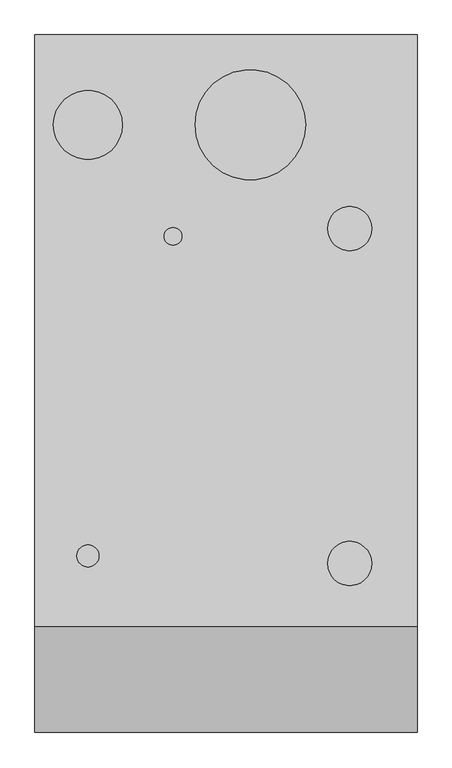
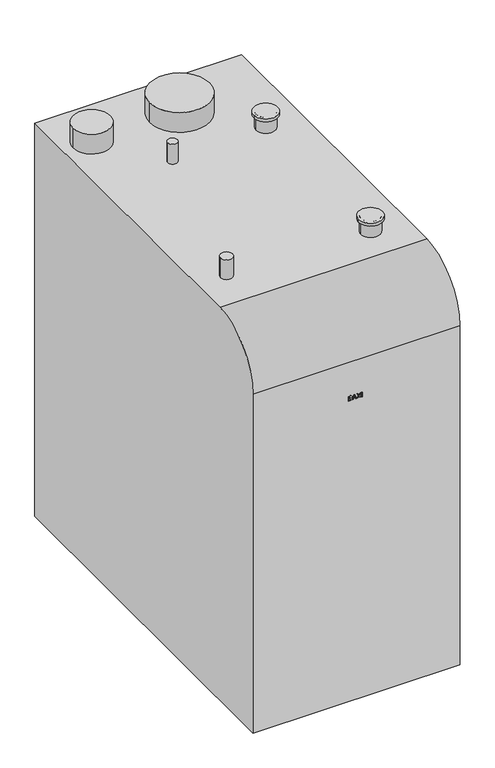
"""IFC4 building model written with IfcOpenShell, lengths in millimetres: proxy geometry, BAXI_ГазовыйКотел_Power_HT : BAXI_Газовый котел_Power_HT_1.280."""

import ifcopenshell
import ifcopenshell.guid

model = None  # the IFC model being written
_history = None  # IfcOwnerHistory: only IFC2X3 demands one
_inside = {}  # id of a spatial element -> (the spatial element, [elements in it])
_under = {}  # id of a project, library or spatial element -> (it, [spatial elements below it])
_declared = {}  # id of a project -> (the project, [libraries it declares])
_typed = {}  # id of a type object -> (the type object, [elements of that type])
_made_of = {}  # id of a material, layer set ... -> (it, [elements and type objects made of it])


def new_model(schema):
    """Start an empty IFC model of exactly this schema.

    Asked for "IFC4X3", IfcOpenShell would pick the latest addendum, in which some entities
    have other attributes; the version numbers below select the first issue.
    IFC2X3 requires an IfcOwnerHistory on every rooted entity: one is made here for all.
    """
    global model, _history
    if schema == "IFC4X3":
        model = ifcopenshell.file(schema_version=(4, 3, 0, 0))
    else:
        model = ifcopenshell.file(schema=schema)
    _inside.clear()
    _under.clear()
    _declared.clear()
    _typed.clear()
    _made_of.clear()
    _history = None
    if model.schema == "IFC2X3":
        org = make("IfcOrganization", Name="unknown")
        user = make(
            "IfcPersonAndOrganization",
            ThePerson=make("IfcPerson", FamilyName="unknown"),
            TheOrganization=org,
        )
        app = make(
            "IfcApplication",
            ApplicationDeveloper=org,
            Version="unknown",
            ApplicationFullName="unknown",
            ApplicationIdentifier="unknown",
        )
        _history = make(
            "IfcOwnerHistory",
            OwningUser=user,
            OwningApplication=app,
            ChangeAction="ADDED",
            CreationDate=0,
        )
    return model


def make(cls, **values):
    """One entity of the class cls with the attributes given. An attribute that is None is left unset."""
    return model.create_entity(
        cls, **{name: value for name, value in values.items() if value is not None}
    )


def rooted(cls, **values):
    """An entity with a GlobalId (a new one), such as an element, a storey or a relation."""
    return make(cls, GlobalId=ifcopenshell.guid.new(), OwnerHistory=_history, **values)


def si_unit(unit_type, name, prefix=None):
    """IfcSIUnit, for example si_unit("LENGTHUNIT", "METRE", prefix="MILLI")."""
    return make("IfcSIUnit", UnitType=unit_type, Prefix=prefix, Name=name)


def assignment(units):
    """IfcUnitAssignment: the units of a project."""
    return None if units is None else make("IfcUnitAssignment", Units=units)


def point(xyz):
    """IfcCartesianPoint."""
    return None if xyz is None else make("IfcCartesianPoint", Coordinates=xyz)


def direction(xyz):
    """IfcDirection."""
    return None if xyz is None else make("IfcDirection", DirectionRatios=xyz)


def frame(location, z_axis=None, x_axis=None):
    """IfcAxis2Placement3D, a coordinate frame: its origin and axes. An axis left out is left unset."""
    return make(
        "IfcAxis2Placement3D",
        Location=point(location),
        Axis=direction(z_axis),
        RefDirection=direction(x_axis),
    )


def frame_2d(location, x_axis=None):
    """IfcAxis2Placement2D, a coordinate frame in the plane: its origin and x axis."""
    return make(
        "IfcAxis2Placement2D", Location=point(location), RefDirection=direction(x_axis)
    )


def origin():
    """The frame at (0, 0, 0) with its axes left unset."""
    return frame((0.0, 0.0, 0.0))


def place(relative_to, where):
    """IfcLocalPlacement: puts the frame where relative to a parent placement (None: the world)."""
    return make(
        "IfcLocalPlacement", PlacementRelTo=relative_to, RelativePlacement=where
    )


def context(
    kind, dimensions, precision=None, world=None, true_north=None, identifier=None
):
    """IfcGeometricRepresentationContext, for example the 3D "Model" context."""
    return make(
        "IfcGeometricRepresentationContext",
        ContextIdentifier=identifier,
        ContextType=kind,
        CoordinateSpaceDimension=dimensions,
        Precision=precision,
        WorldCoordinateSystem=world,
        TrueNorth=true_north,
    )


def project(units=None, contexts=None):
    """IfcProject with its units and contexts."""
    return rooted(
        "IfcProject",
        Name="project",
        RepresentationContexts=contexts,
        UnitsInContext=assignment(units),
    )


def spatial(cls, under=None, at=None, **own):
    """A site, building, storey or space (cls), placed at a placement, below another one or the project."""
    s = rooted(cls, ObjectPlacement=at, **own)
    if under is not None:
        _under.setdefault(under.id(), (under, []))[1].append(s)
    return s


def polyline(points):
    """IfcPolyline through the points."""
    return make("IfcPolyline", Points=[point(p) for p in points])


def circle_curve(where, radius):
    """IfcCircle in the frame where."""
    return make("IfcCircle", Position=where, Radius=radius)


def trimmed(basis, trim1, trim2, sense, master):
    """IfcTrimmedCurve: the piece of a basis curve between two trims."""
    return make(
        "IfcTrimmedCurve",
        BasisCurve=basis,
        Trim1=trim1,
        Trim2=trim2,
        SenseAgreement=sense,
        MasterRepresentation=master,
    )


def segment(curve, same_sense, transition):
    """IfcCompositeCurveSegment."""
    return make(
        "IfcCompositeCurveSegment",
        Transition=transition,
        SameSense=same_sense,
        ParentCurve=curve,
    )


def composite_curve(segments, self_intersect=None):
    """IfcCompositeCurve: segments joined end to end."""
    return make("IfcCompositeCurve", Segments=segments, SelfIntersect=self_intersect)


def outline(outer, holes=None, kind="AREA"):
    """IfcArbitraryClosedProfileDef: a profile drawn as a closed curve; with holes, ...WithVoids."""
    if holes is None:
        return make("IfcArbitraryClosedProfileDef", ProfileType=kind, OuterCurve=outer)
    return make(
        "IfcArbitraryProfileDefWithVoids",
        ProfileType=kind,
        OuterCurve=outer,
        InnerCurves=holes,
    )


def extrude(swept, where, along, depth):
    """IfcExtrudedAreaSolid: the profile swept, set in the frame where, extruded along a direction by depth."""
    return make(
        "IfcExtrudedAreaSolid",
        SweptArea=swept,
        Position=where,
        ExtrudedDirection=direction(along),
        Depth=depth,
    )


def shape(context_of_items, identifier, shape_type, items):
    """IfcShapeRepresentation: the items that make up one representation, for example the "Body"."""
    return make(
        "IfcShapeRepresentation",
        ContextOfItems=context_of_items,
        RepresentationIdentifier=identifier,
        RepresentationType=shape_type,
        Items=items,
    )


def source(mapping_origin, context_of_items, identifier, shape_type, items):
    """IfcRepresentationMap: a shape defined once, which mapped items show again and again."""
    return make(
        "IfcRepresentationMap",
        MappingOrigin=mapping_origin,
        MappedRepresentation=shape(context_of_items, identifier, shape_type, items),
    )


def transform(
    local_origin,
    x_axis=None,
    y_axis=None,
    z_axis=None,
    scale=None,
    scale2=None,
    scale3=None,
    uniform=True,
):
    """IfcCartesianTransformationOperator3D, or its non-uniform kind. x_axis, y_axis, z_axis: its Axis1, 2, 3."""
    if uniform:
        return make(
            "IfcCartesianTransformationOperator3D",
            Axis1=direction(x_axis),
            Axis2=direction(y_axis),
            LocalOrigin=point(local_origin),
            Scale=scale,
            Axis3=direction(z_axis),
        )
    return make(
        "IfcCartesianTransformationOperator3DnonUniform",
        Axis1=direction(x_axis),
        Axis2=direction(y_axis),
        LocalOrigin=point(local_origin),
        Scale=scale,
        Axis3=direction(z_axis),
        Scale2=scale2,
        Scale3=scale3,
    )


def mapped(mapping_source, mapping_target):
    """IfcMappedItem: shows the shape of a source again, moved by a transform."""
    return make(
        "IfcMappedItem", MappingSource=mapping_source, MappingTarget=mapping_target
    )


def made_of(thing, what):
    """Note that an element or type object is made of a material, layer set ...; save() writes the relation."""
    if what is not None:
        _made_of.setdefault(what.id(), (what, []))[1].append(thing)
    return thing


def element(
    cls,
    number,
    at=None,
    inside=None,
    cuts=None,
    type_object=None,
    material=None,
    context=None,
    identifier="Body",
    shape_type=None,
    held_by="IfcProductDefinitionShape",
    body=None,
    shapes=None,
    **own,
):
    """One element of the class cls, such as IfcWall. Its Tag is "e" and its number.

    at: its placement. inside: the storey or other place that contains it. cuts: it is an
    opening in that element (IfcRelVoidsElement). A single representation is given by context,
    identifier, shape_type and body (its items); several are given by shapes. held_by: the class
    of the entity that holds the representations. save() writes the other relations.
    """
    e = rooted(cls, Tag="e%d" % number, ObjectPlacement=at, **own)
    if body is not None:
        shapes = [shape(context, identifier, shape_type, body)]
    if shapes is not None:
        e.Representation = make(held_by, Representations=shapes)
    if inside is not None:
        _inside.setdefault(inside.id(), (inside, []))[1].append(e)
    if cuts is not None:
        rooted(
            "IfcRelVoidsElement", RelatingBuildingElement=cuts, RelatedOpeningElement=e
        )
    if type_object is not None:
        _typed.setdefault(type_object.id(), (type_object, []))[1].append(e)
    return made_of(e, material)


def aggregate(whole, parts):
    """IfcRelAggregates: a whole, such as a stair, and the parts it consists of."""
    return rooted("IfcRelAggregates", RelatingObject=whole, RelatedObjects=parts)


def save(model, path):
    """Write the relations noted so far, then the file.

    IfcRelAggregates (storeys below a building ...), IfcRelContainedInSpatialStructure (elements
    in a storey), IfcRelDefinesByType, IfcRelAssociatesMaterial and IfcRelDeclares: one each for
    every whole, place, type object, material and project.
    """
    for whole, parts in _under.values():
        aggregate(whole, parts)
    for where, things in _inside.values():
        rooted(
            "IfcRelContainedInSpatialStructure",
            RelatedElements=things,
            RelatingStructure=where,
        )
    for kind, things in _typed.values():
        rooted("IfcRelDefinesByType", RelatedObjects=things, RelatingType=kind)
    for what, things in _made_of.values():
        rooted("IfcRelAssociatesMaterial", RelatedObjects=things, RelatingMaterial=what)
    for by, libraries in _declared.values():
        rooted("IfcRelDeclares", RelatingContext=by, RelatedDefinitions=libraries)
    model.write(path)


def mechanical_equipment_f56d0d52(model_context):
    return source(origin(), model_context, "Body", "SweptSolid", [
        extrude(outline(polyline([(1077.0261683, -27.1214036), (1061.7222773, -27.1214036), (1061.7222773, -21.8910559), (1061.8247588, -18.1485865), (1062.5478221, -16.0666956), (1064.1154081, -14.7344372), (1066.1365693, -14.2467016), (1068.4329121, -14.9261154), (1069.8145134, -16.8694667), (1071.1695454, -15.307574), (1073.1508527, -14.7325394), (1074.9518686, -15.2145816), (1076.2385797, -16.4196871), (1076.874344, -18.0593897), (1077.0261683, -20.8396725), (1077.0261683, -27.1214036)]), holes=[polyline([(1074.3540604, -24.2063767), (1074.3540604, -22.2554343), (1071.0025386, -19.5150054), (1070.9531957, -21.9821505), (1070.9531957, -24.2063767), (1074.3540604, -24.2063767)]), polyline([(1068.2810878, -24.2063767), (1068.2810878, -21.5152907), (1064.4854799, -18.8393872), (1064.3943853, -21.1243431), (1064.3943853, -24.2063767), (1068.2810878, -24.2063767)])]), frame((0.0, -1264.0, 0.0), z_axis=(0.0, 1.0, 0.0), x_axis=(0.0, 0.0, 1.0)), (0.0, 0.0, 1.0), 5.0),
        extrude(outline(polyline([(1061.7222773, 1.0571894), (1077.0261683, -4.5830839), (1077.0261683, -7.6878912), (1061.7222773, -13.275026), (1061.7222773, -10.1702188), (1065.123142, -8.9859891), (1065.123142, -3.2052783), (1061.7222773, -2.0058662), (1061.7222773, 1.0571894)]), holes=[polyline([(1067.79525, -4.1389978), (1067.79525, -8.0522696), (1073.3823848, -6.1089183), (1067.79525, -4.1389978)])]), frame((0.0, -1264.0, 0.0), z_axis=(0.0, 1.0, 0.0), x_axis=(0.0, 0.0, 1.0)), (0.0, 0.0, 1.0), 5.0),
        extrude(outline(polyline([(1061.7222773, 1.1786488), (1061.7222773, 4.5871047), (1067.127223, 8.1018376), (1061.7222773, 11.6165705), (1061.7222773, 15.0250264), (1069.7461924, 9.8060656), (1077.0261683, 14.5391886), (1077.0261683, 11.1307327), (1072.3689575, 8.1018376), (1077.0261683, 5.0729425), (1077.0261683, 1.6644866), (1069.7461924, 6.3976097), (1061.7222773, 1.1786488)])), frame((0.0, -1264.0, 0.0), z_axis=(0.0, 1.0, 0.0), x_axis=(0.0, 0.0, 1.0)), (0.0, 0.0, 1.0), 5.0),
        extrude(outline(polyline([(16.6039993, -1259.0), (19.5190261, -1259.0), (19.5190261, -1264.0), (16.6039993, -1264.0), (16.6039993, -1259.0)])), frame((0.0, 0.0, 1061.7222773), z_axis=(0.0, 0.0, 1.0), x_axis=(1.0, 0.0, 0.0)), (0.0, 0.0, 1.0), 15.303891),
        extrude(outline(composite_curve([segment(trimmed(circle_curve(frame_2d((224.0, -351.0)), 40.0), [point((184.0, -351.0))], [point((264.0, -351.0))], False, "CARTESIAN"), True, "CONTINUOUS"), segment(trimmed(circle_curve(frame_2d((224.0, -351.0)), 40.0), [point((264.0, -351.0))], [point((184.0, -351.0))], False, "CARTESIAN"), True, "CONTINUOUS")], self_intersect=False)), frame((0.0, 0.0, 1435.0), z_axis=(0.0, 0.0, 1.0), x_axis=(1.0, 0.0, 0.0)), (0.0, 0.0, 1.0), 10.0),
        extrude(outline(composite_curve([segment(trimmed(circle_curve(frame_2d((224.0, -958.0)), 40.0), [point((184.0, -958.0))], [point((264.0, -958.0))], False, "CARTESIAN"), True, "CONTINUOUS"), segment(trimmed(circle_curve(frame_2d((224.0, -958.0)), 40.0), [point((264.0, -958.0))], [point((184.0, -958.0))], False, "CARTESIAN"), True, "CONTINUOUS")], self_intersect=False)), frame((0.0, 0.0, 1435.0), z_axis=(0.0, 0.0, 1.0), x_axis=(1.0, 0.0, 0.0)), (0.0, 0.0, 1.0), 10.0),
        extrude(outline(composite_curve([segment(trimmed(circle_curve(frame_2d((44.0, -163.0)), 100.0), [point((-56.0, -163.0))], [point((144.0, -163.0))], False, "CARTESIAN"), True, "CONTINUOUS"), segment(trimmed(circle_curve(frame_2d((44.0, -163.0)), 100.0), [point((144.0, -163.0))], [point((-56.0, -163.0))], False, "CARTESIAN"), True, "CONTINUOUS")], self_intersect=False)), frame((0.0, 0.0, 1389.0), z_axis=(0.0, 0.0, 1.0), x_axis=(1.0, 0.0, 0.0)), (0.0, 0.0, 1.0), 70.0),
        extrude(outline(composite_curve([segment(trimmed(circle_curve(frame_2d((-96.0, -365.0)), 16.0), [point((-112.0, -365.0))], [point((-80.0, -365.0))], False, "CARTESIAN"), True, "CONTINUOUS"), segment(trimmed(circle_curve(frame_2d((-96.0, -365.0)), 16.0), [point((-80.0, -365.0))], [point((-112.0, -365.0))], False, "CARTESIAN"), True, "CONTINUOUS")], self_intersect=False)), frame((0.0, 0.0, 1389.0), z_axis=(0.0, 0.0, 1.0), x_axis=(1.0, 0.0, 0.0)), (0.0, 0.0, 1.0), 70.0),
        extrude(outline(composite_curve([segment(trimmed(circle_curve(frame_2d((-250.0, -944.0)), 20.0), [point((-270.0, -944.0))], [point((-230.0, -944.0))], False, "CARTESIAN"), True, "CONTINUOUS"), segment(trimmed(circle_curve(frame_2d((-250.0, -944.0)), 20.0), [point((-230.0, -944.0))], [point((-270.0, -944.0))], False, "CARTESIAN"), True, "CONTINUOUS")], self_intersect=False)), frame((0.0, 0.0, 1389.0), z_axis=(0.0, 0.0, 1.0), x_axis=(1.0, 0.0, 0.0)), (0.0, 0.0, 1.0), 70.0),
        extrude(outline(composite_curve([segment(trimmed(circle_curve(frame_2d((224.0, -958.0)), 32.5), [point((191.5, -958.0))], [point((256.5, -958.0))], False, "CARTESIAN"), True, "CONTINUOUS"), segment(trimmed(circle_curve(frame_2d((224.0, -958.0)), 32.5), [point((256.5, -958.0))], [point((191.5, -958.0))], False, "CARTESIAN"), True, "CONTINUOUS")], self_intersect=False)), frame((0.0, 0.0, 1389.0), z_axis=(0.0, 0.0, 1.0), x_axis=(1.0, 0.0, 0.0)), (0.0, 0.0, 1.0), 56.0),
        extrude(outline(composite_curve([segment(trimmed(circle_curve(frame_2d((224.0, -351.0)), 32.5), [point((191.5, -351.0))], [point((256.5, -351.0))], False, "CARTESIAN"), True, "CONTINUOUS"), segment(trimmed(circle_curve(frame_2d((224.0, -351.0)), 32.5), [point((256.5, -351.0))], [point((191.5, -351.0))], False, "CARTESIAN"), True, "CONTINUOUS")], self_intersect=False)), frame((0.0, 0.0, 1389.0), z_axis=(0.0, 0.0, 1.0), x_axis=(1.0, 0.0, 0.0)), (0.0, 0.0, 1.0), 56.0),
        extrude(outline(composite_curve([segment(trimmed(circle_curve(frame_2d((-250.0, -163.0)), 62.5), [point((-312.5, -163.0))], [point((-187.5, -163.0))], False, "CARTESIAN"), True, "CONTINUOUS"), segment(trimmed(circle_curve(frame_2d((-250.0, -163.0)), 62.5), [point((-187.5, -163.0))], [point((-312.5, -163.0))], False, "CARTESIAN"), True, "CONTINUOUS")], self_intersect=False)), frame((0.0, 0.0, 1389.0), z_axis=(0.0, 0.0, 1.0), x_axis=(1.0, 0.0, 0.0)), (0.0, 0.0, 1.0), 70.0),
        extrude(outline(composite_curve([segment(polyline([(0.0, 0.0), (-1264.0, 0.0), (-1264.0, 1196.9879617)]), True, "CONTINUOUS"), segment(trimmed(circle_curve(frame_2d((-1071.9879617, 1196.9879617)), 192.0120383), [point((-1264.0, 1196.9879617))], [point((-1071.9879617, 1389.0))], False, "CARTESIAN"), True, "CONTINUOUS"), segment(polyline([(-1071.9879617, 1389.0), (0.0, 1389.0), (0.0, 0.0)]), True, "CONTINUOUS")], self_intersect=False)), frame((-346.0, 0.0, 0.0), z_axis=(1.0, 0.0, 0.0), x_axis=(0.0, 1.0, 0.0)), (0.0, 0.0, 1.0), 692.0),
    ])


if __name__ == "__main__":
    model = new_model("IFC4")
    model_context = context("Model", 3, world=origin())
    ifc_project = project(units=[si_unit("LENGTHUNIT", "METRE", prefix="MILLI")], contexts=[model_context])
    site = spatial("IfcSite", under=ifc_project)
    building = spatial("IfcBuilding", under=site)
    placement = place(None, origin())
    mechanical_equipment_shape = mechanical_equipment_f56d0d52(model_context)
    element("IfcBuildingElementProxy", 1, Name="BAXI_ГазовыйКотел_Power_HT : BAXI_Газовый котел_Power_HT_1.280", ObjectType="BAXI_ГазовыйКотел_Power_HT : BAXI_Газовый котел_Power_HT_1.280", at=placement, inside=building, context=model_context, shape_type="MappedRepresentation", body=[
        mapped(mechanical_equipment_shape, transform((0.0, 0.0, 0.0), x_axis=(1.0, 0.0, 0.0), y_axis=(0.0, 1.0, 0.0), z_axis=(0.0, 0.0, 1.0))),
    ])
    save(model, "model.ifc")
